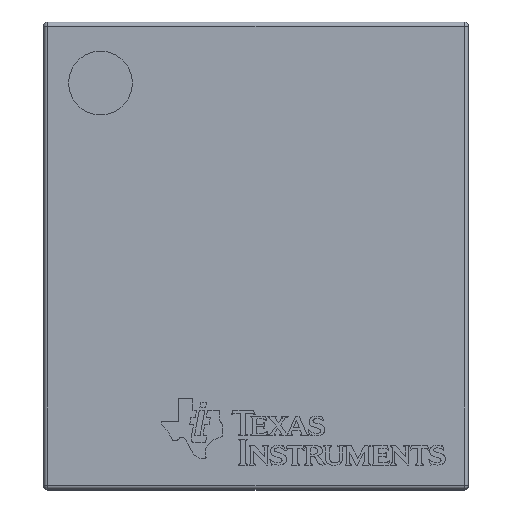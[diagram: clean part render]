
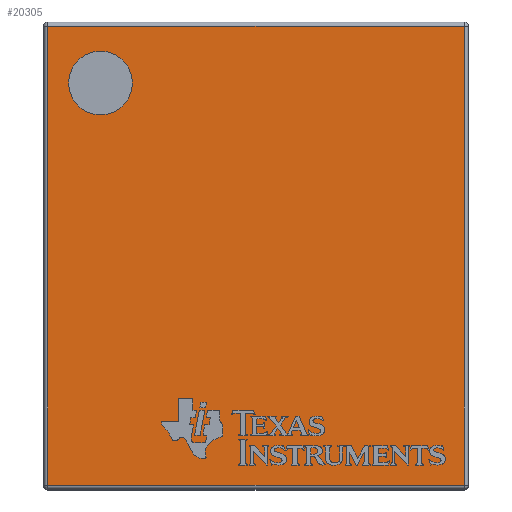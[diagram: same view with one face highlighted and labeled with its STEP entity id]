
A CAD part, top view. The second image highlights one B-rep face of the part: STEP entity #20305.
In plain terms, the highlighted planar face has unit normal (0, 0, 1).
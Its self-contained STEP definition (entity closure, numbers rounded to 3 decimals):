
#1068=PLANE('',#21634);
#1868=LINE('',#26858,#4250);
#1872=LINE('',#26874,#4254);
#1874=LINE('',#26877,#4256);
#1876=LINE('',#26880,#4258);
#4250=VECTOR('',#22594,10.);
#4254=VECTOR('',#22612,10.);
#4256=VECTOR('',#22616,10.);
#4258=VECTOR('',#22620,10.);
#6681=FACE_OUTER_BOUND('',#7825,.T.);
#7825=EDGE_LOOP('',(#14239,#14240,#14241,#14242));
#9050=VERTEX_POINT('',#26820);
#9055=VERTEX_POINT('',#26833);
#9060=VERTEX_POINT('',#26846);
#9065=VERTEX_POINT('',#26862);
#11107=EDGE_CURVE('',#9050,#9060,#1868,.T.);
#11115=EDGE_CURVE('',#9060,#9065,#1872,.T.);
#11117=EDGE_CURVE('',#9065,#9055,#1874,.T.);
#11119=EDGE_CURVE('',#9055,#9050,#1876,.T.);
#14239=ORIENTED_EDGE('',*,*,#11107,.F.);
#14240=ORIENTED_EDGE('',*,*,#11119,.F.);
#14241=ORIENTED_EDGE('',*,*,#11117,.F.);
#14242=ORIENTED_EDGE('',*,*,#11115,.F.);
#20305=ADVANCED_FACE('',(#6681),#1068,.T.);
#21634=AXIS2_PLACEMENT_3D('',#26950,#22660,#22661);
#22594=DIRECTION('',(0.,-1.,0.));
#22612=DIRECTION('',(-1.,0.,0.));
#22616=DIRECTION('',(0.,1.,0.));
#22620=DIRECTION('',(1.,0.,0.));
#22660=DIRECTION('center_axis',(0.,0.,1.));
#22661=DIRECTION('ref_axis',(1.,0.,0.));
#26820=CARTESIAN_POINT('',(2.45,2.7,4.1));
#26833=CARTESIAN_POINT('',(-2.45,2.7,4.1));
#26846=CARTESIAN_POINT('',(2.45,-2.7,4.1));
#26858=CARTESIAN_POINT('',(2.45,0.325,4.1));
#26862=CARTESIAN_POINT('',(-2.45,-2.7,4.1));
#26874=CARTESIAN_POINT('',(-1.25,-2.7,4.1));
#26877=CARTESIAN_POINT('',(-2.45,1.138,4.1));
#26880=CARTESIAN_POINT('',(1.25,2.7,4.1));
#26950=CARTESIAN_POINT('Origin',(0.,0.,
4.1));
